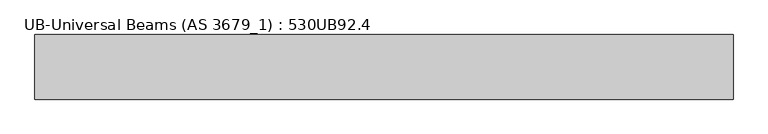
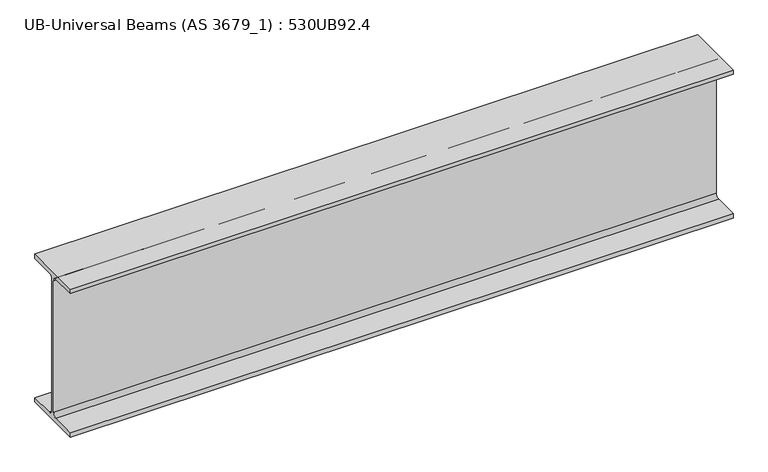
"""IFC4 building model written with IfcOpenShell, lengths in millimetres: beam geometry, UB-Universal Beams (AS 3679_1) : 530UB92.4."""

from ifc_helpers import new_model, si_unit, point, frame, frame_2d, origin, place, context, project, spatial, polyline, circle_curve, trimmed, segment, composite_curve, outline, extrude, source, transform, mapped, element, save


def ub_universal_beams_as_3679_1_530ub92_4_f17eb3f2(model_context):
    return source(origin(), model_context, "Body", "SweptSolid", [
        extrude(outline(composite_curve([segment(polyline([(104.5, -250.9), (104.5, -266.5), (-104.5, -266.5), (-104.5, -250.9), (-19.1, -250.9)]), True, "CONTINUOUS"), segment(trimmed(circle_curve(frame_2d((-19.1, -236.9)), 14.0), [point((-19.1, -250.9))], [point((-5.1, -236.9))], True, "CARTESIAN"), True, "CONTINUOUS"), segment(polyline([(-5.1, -236.9), (-5.1, 236.9)]), True, "CONTINUOUS"), segment(trimmed(circle_curve(frame_2d((-19.1, 236.9)), 14.0), [point((-5.1, 236.9))], [point((-19.1, 250.9))], True, "CARTESIAN"), True, "CONTINUOUS"), segment(polyline([(-19.1, 250.9), (-104.5, 250.9), (-104.5, 266.5), (104.5, 266.5), (104.5, 250.9), (19.1, 250.9)]), True, "CONTINUOUS"), segment(trimmed(circle_curve(frame_2d((19.1, 236.9)), 14.0), [point((19.1, 250.9))], [point((5.1, 236.9))], True, "CARTESIAN"), True, "CONTINUOUS"), segment(polyline([(5.1, 236.9), (5.1, -236.9)]), True, "CONTINUOUS"), segment(trimmed(circle_curve(frame_2d((19.1, -236.9)), 14.0), [point((5.1, -236.9))], [point((19.1, -250.9))], True, "CARTESIAN"), True, "CONTINUOUS"), segment(polyline([(19.1, -250.9), (104.5, -250.9)]), True, "CONTINUOUS")], self_intersect=False)), frame((-1070.3, 0.0, 0.0), z_axis=(1.0, 0.0, 0.0), x_axis=(0.0, 1.0, 0.0)), (0.0, 0.0, 1.0), 2257.8),
    ])


if __name__ == "__main__":
    model = new_model("IFC4")
    model_context = context("Model", 3, world=origin())
    ifc_project = project(units=[si_unit("LENGTHUNIT", "METRE", prefix="MILLI")], contexts=[model_context])
    site = spatial("IfcSite", under=ifc_project)
    building = spatial("IfcBuilding", under=site)
    placement = place(None, origin())
    ub_universal_beams_as_3679_1_530ub92_4_shape = ub_universal_beams_as_3679_1_530ub92_4_f17eb3f2(model_context)
    element("IfcBeam", 1, ObjectType="UB-Universal Beams (AS 3679_1) : 530UB92.4", at=placement, inside=building, context=model_context, shape_type="MappedRepresentation", body=[
        mapped(ub_universal_beams_as_3679_1_530ub92_4_shape, transform((0.0, 0.0, 0.0), x_axis=(1.0, 0.0, 0.0), y_axis=(0.0, 1.0, 0.0), z_axis=(0.0, 0.0, 1.0))),
    ])
    save(model, "model.ifc")
